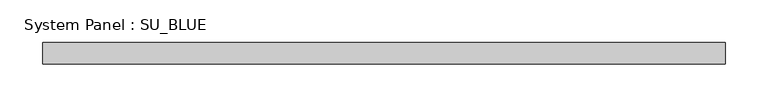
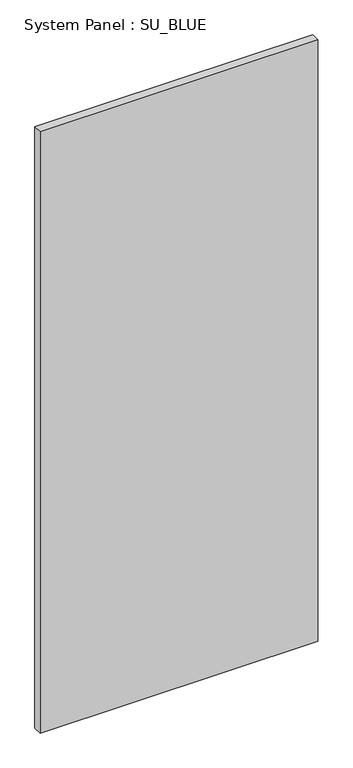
"""IFC4 building model written with IfcOpenShell, lengths in millimetres: plate geometry, System Panel : SU_BLUE."""

from ifc_helpers import new_model, si_unit, origin, origin_with_axes, place, context, project, spatial, polyline, outline, extrude, source, transform, mapped, element, save


def system_panel_su_blue_b9649bec(model_context):
    return source(origin(), model_context, "Body", "SweptSolid", [
        extrude(outline(polyline([(399.4846123, 19.05), (-399.4846123, 19.05), (-399.4846123, 44.45), (399.4846123, 44.45), (399.4846123, 19.05)])), origin_with_axes(), (0.0, 0.0, 1.0), 1828.8),
    ])


if __name__ == "__main__":
    model = new_model("IFC4")
    model_context = context("Model", 3, world=origin())
    ifc_project = project(units=[si_unit("LENGTHUNIT", "METRE", prefix="MILLI")], contexts=[model_context])
    site = spatial("IfcSite", under=ifc_project)
    building = spatial("IfcBuilding", under=site)
    placement = place(None, origin())
    system_panel_su_blue_shape = system_panel_su_blue_b9649bec(model_context)
    element("IfcPlate", 1, ObjectType="System Panel : SU_BLUE", at=placement, inside=building, context=model_context, shape_type="MappedRepresentation", body=[
        mapped(system_panel_su_blue_shape, transform((0.0, 0.0, 0.0), x_axis=(1.0, 0.0, 0.0), y_axis=(0.0, 1.0, 0.0), z_axis=(0.0, 0.0, 1.0))),
    ])
    save(model, "model.ifc")
